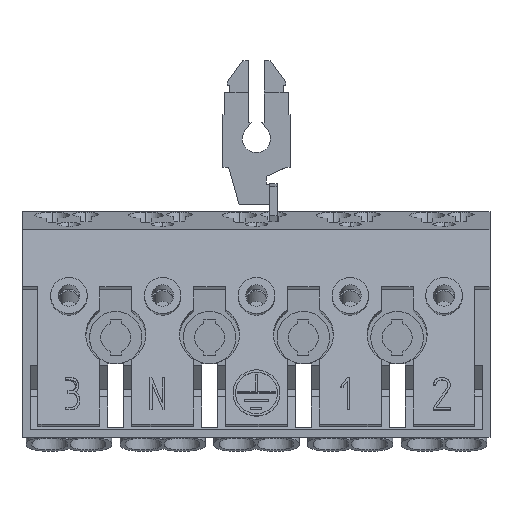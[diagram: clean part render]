
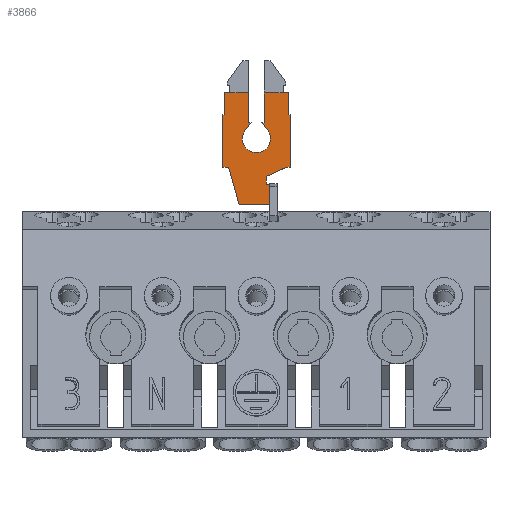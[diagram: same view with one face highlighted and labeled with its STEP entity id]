
A CAD part, top view. The second image highlights one B-rep face of the part: STEP entity #3866.
In plain terms, the highlighted planar face has unit normal (0, 0, 1).
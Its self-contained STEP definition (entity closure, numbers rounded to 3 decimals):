
#966=CARTESIAN_POINT(' ',(12.4,-1.6,2.));
#967=VERTEX_POINT(' ',#966);
#981=CARTESIAN_POINT(' ',(10.101,-1.6,2.));
#986=DIRECTION(' ',(1.,0.,0.));
#991=VECTOR(' ',#986,1.);
#996=LINE('',#981,#991);
#1001=CARTESIAN_POINT(' ',(10.101,-1.6,2.));
#1002=VERTEX_POINT(' ',#1001);
#1006=EDGE_CURVE(' ',#1002,#967,#996,.T.);
#2061=CARTESIAN_POINT(' ',(9.239,0.95,2.));
#2062=VERTEX_POINT(' ',#2061);
#2076=CARTESIAN_POINT(' ',(9.239,0.95,2.));
#2081=DIRECTION(' ',(1.,0.,0.));
#2086=VECTOR(' ',#2081,1.);
#2091=LINE('',#2076,#2086);
#2096=CARTESIAN_POINT(' ',(12.4,0.95,2.));
#2097=VERTEX_POINT(' ',#2096);
#2101=EDGE_CURVE(' ',#2062,#2097,#2091,.T.);
#2856=CARTESIAN_POINT(' ',(12.4,-1.6,2.));
#2861=DIRECTION(' ',(0.,1.,0.));
#2866=VECTOR(' ',#2861,1.);
#2871=LINE('',#2856,#2866);
#2876=EDGE_CURVE(' ',#967,#2097,#2871,.T.);
#3076=CARTESIAN_POINT(' ',(0.5,-1.8,2.));
#3081=DIRECTION(' ',(0.,0.,1.));
#3086=DIRECTION(' ',(1.,0.,0.));
#3091=AXIS2_PLACEMENT_3D(' ',#3076,#3081,#3086);
#3096=PLANE(' ',#3091);
#3101=CARTESIAN_POINT(' ',(0.5,3.651,2.));
#3106=DIRECTION(' ',(0.963,0.268,0.));
#3111=VECTOR(' ',#3106,1.);
#3116=LINE('',#3101,#3111);
#3121=CARTESIAN_POINT(' ',(0.5,3.651,2.));
#3122=VERTEX_POINT(' ',#3121);
#3126=CARTESIAN_POINT(' ',(4.493,4.764,2.));
#3127=VERTEX_POINT(' ',#3126);
#3131=EDGE_CURVE(' ',#3122,#3127,#3116,.T.);
#3136=ORIENTED_EDGE(' ',*,*,#3131,.F.);
#3141=CARTESIAN_POINT(' ',(0.5,0.4,2.));
#3146=DIRECTION(' ',(0.,1.,0.));
#3151=VECTOR(' ',#3146,1.);
#3156=LINE('',#3141,#3151);
#3161=CARTESIAN_POINT(' ',(0.5,0.4,2.));
#3162=VERTEX_POINT(' ',#3161);
#3166=EDGE_CURVE(' ',#3162,#3122,#3156,.T.);
#3171=ORIENTED_EDGE(' ',*,*,#3166,.F.);
#3176=CARTESIAN_POINT(' ',(0.5,0.4,2.));
#3181=DIRECTION(' ',(1.,0.,0.));
#3186=VECTOR(' ',#3181,1.);
#3191=LINE('',#3176,#3186);
#3196=CARTESIAN_POINT(' ',(2.66,0.4,2.));
#3197=VERTEX_POINT(' ',#3196);
#3201=EDGE_CURVE(' ',#3162,#3197,#3191,.T.);
#3206=ORIENTED_EDGE(' ',*,*,#3201,.T.);
#3211=CARTESIAN_POINT(' ',(2.66,0.4,2.));
#3216=DIRECTION(' ',(0.,1.,0.));
#3221=VECTOR(' ',#3216,1.);
#3226=LINE('',#3211,#3221);
#3231=CARTESIAN_POINT(' ',(2.66,0.734,2.));
#3232=VERTEX_POINT(' ',#3231);
#3236=EDGE_CURVE(' ',#3197,#3232,#3226,.T.);
#3241=ORIENTED_EDGE(' ',*,*,#3236,.T.);
#3246=CARTESIAN_POINT(' ',(2.66,0.734,2.));
#3251=DIRECTION(' ',(1.,0.,0.));
#3256=VECTOR(' ',#3251,1.);
#3261=LINE('',#3246,#3256);
#3266=CARTESIAN_POINT(' ',(3.507,0.734,2.));
#3267=VERTEX_POINT(' ',#3266);
#3271=EDGE_CURVE(' ',#3232,#3267,#3261,.T.);
#3276=ORIENTED_EDGE(' ',*,*,#3271,.T.);
#3281=CARTESIAN_POINT(' ',(3.507,0.734,2.));
#3286=DIRECTION(' ',(0.413,-0.911,0.));
#3291=VECTOR(' ',#3286,1.);
#3296=LINE('',#3281,#3291);
#3301=CARTESIAN_POINT(' ',(4.493,-1.441,2.));
#3302=VERTEX_POINT(' ',#3301);
#3306=EDGE_CURVE(' ',#3267,#3302,#3296,.T.);
#3311=ORIENTED_EDGE(' ',*,*,#3306,.T.);
#3316=CARTESIAN_POINT(' ',(4.493,-1.441,2.));
#3321=DIRECTION(' ',(0.,-1.,0.));
#3326=VECTOR(' ',#3321,1.);
#3331=LINE('',#3316,#3326);
#3336=CARTESIAN_POINT(' ',(4.493,-1.8,2.));
#3337=VERTEX_POINT(' ',#3336);
#3341=EDGE_CURVE(' ',#3302,#3337,#3331,.T.);
#3346=ORIENTED_EDGE(' ',*,*,#3341,.T.);
#3351=CARTESIAN_POINT(' ',(4.493,-1.8,2.));
#3356=DIRECTION(' ',(1.,0.,0.));
#3361=VECTOR(' ',#3356,1.);
#3366=LINE('',#3351,#3361);
#3371=CARTESIAN_POINT(' ',(10.101,-1.8,2.));
#3372=VERTEX_POINT(' ',#3371);
#3376=EDGE_CURVE(' ',#3337,#3372,#3366,.T.);
#3381=ORIENTED_EDGE(' ',*,*,#3376,.T.);
#3386=CARTESIAN_POINT(' ',(10.101,-1.8,2.));
#3391=DIRECTION(' ',(0.,1.,0.));
#3396=VECTOR(' ',#3391,1.);
#3401=LINE('',#3386,#3396);
#3406=EDGE_CURVE(' ',#3372,#1002,#3401,.T.);
#3411=ORIENTED_EDGE(' ',*,*,#3406,.T.);
#3416=ORIENTED_EDGE(' ',*,*,#1006,.T.);
#3421=ORIENTED_EDGE(' ',*,*,#2876,.T.);
#3426=ORIENTED_EDGE(' ',*,*,#2101,.F.);
#3431=CARTESIAN_POINT(' ',(9.239,1.26,2.));
#3436=DIRECTION(' ',(0.,-1.,0.));
#3441=VECTOR(' ',#3436,1.);
#3446=LINE('',#3431,#3441);
#3451=CARTESIAN_POINT(' ',(9.239,1.26,2.));
#3452=VERTEX_POINT(' ',#3451);
#3456=EDGE_CURVE(' ',#3452,#2062,#3446,.T.);
#3461=ORIENTED_EDGE(' ',*,*,#3456,.F.);
#3466=CARTESIAN_POINT(' ',(8.46,0.632,2.));
#3471=DIRECTION(' ',(0.778,0.628,0.));
#3476=VECTOR(' ',#3471,1.);
#3481=LINE('',#3466,#3476);
#3486=CARTESIAN_POINT(' ',(8.46,0.632,2.));
#3487=VERTEX_POINT(' ',#3486);
#3491=EDGE_CURVE(' ',#3487,#3452,#3481,.T.);
#3496=ORIENTED_EDGE(' ',*,*,#3491,.F.);
#3501=CARTESIAN_POINT(' ',(7.519,1.8,2.));
#3506=DIRECTION(' ',(0.,-0.,1.));
#3511=DIRECTION(' ',(-1.,0.,0.));
#3516=AXIS2_PLACEMENT_3D(' ',#3501,#3506,#3511);
#3521=CIRCLE('',#3516,1.5);
#3526=CARTESIAN_POINT(' ',(6.019,1.8,2.));
#3527=VERTEX_POINT(' ',#3526);
#3531=EDGE_CURVE(' ',#3527,#3487,#3521,.T.);
#3536=ORIENTED_EDGE(' ',*,*,#3531,.F.);
#3541=CARTESIAN_POINT(' ',(7.519,1.8,2.));
#3546=DIRECTION(' ',(0.,0.,1.));
#3551=DIRECTION(' ',(0.628,0.778,0.));
#3556=AXIS2_PLACEMENT_3D(' ',#3541,#3546,#3551);
#3561=CIRCLE('',#3556,1.5);
#3566=CARTESIAN_POINT(' ',(8.46,2.968,2.));
#3567=VERTEX_POINT(' ',#3566);
#3571=EDGE_CURVE(' ',#3567,#3527,#3561,.T.);
#3576=ORIENTED_EDGE(' ',*,*,#3571,.F.);
#3581=CARTESIAN_POINT(' ',(9.239,2.34,2.));
#3586=DIRECTION(' ',(-0.778,0.628,0.));
#3591=VECTOR(' ',#3586,1.);
#3596=LINE('',#3581,#3591);
#3601=CARTESIAN_POINT(' ',(9.239,2.34,2.));
#3602=VERTEX_POINT(' ',#3601);
#3606=EDGE_CURVE(' ',#3602,#3567,#3596,.T.);
#3611=ORIENTED_EDGE(' ',*,*,#3606,.F.);
#3616=CARTESIAN_POINT(' ',(9.239,2.65,2.));
#3621=DIRECTION(' ',(0.,-1.,0.));
#3626=VECTOR(' ',#3621,1.);
#3631=LINE('',#3616,#3626);
#3636=CARTESIAN_POINT(' ',(9.239,2.65,2.));
#3637=VERTEX_POINT(' ',#3636);
#3641=EDGE_CURVE(' ',#3637,#3602,#3631,.T.);
#3646=ORIENTED_EDGE(' ',*,*,#3641,.F.);
#3651=CARTESIAN_POINT(' ',(12.4,2.65,2.));
#3656=DIRECTION(' ',(-1.,0.,0.));
#3661=VECTOR(' ',#3656,1.);
#3666=LINE('',#3651,#3661);
#3671=CARTESIAN_POINT(' ',(12.4,2.65,2.));
#3672=VERTEX_POINT(' ',#3671);
#3676=EDGE_CURVE(' ',#3672,#3637,#3666,.T.);
#3681=ORIENTED_EDGE(' ',*,*,#3676,.F.);
#3686=CARTESIAN_POINT(' ',(12.4,2.65,2.));
#3691=DIRECTION(' ',(0.,1.,0.));
#3696=VECTOR(' ',#3691,1.);
#3701=LINE('',#3686,#3696);
#3706=CARTESIAN_POINT(' ',(12.4,5.2,2.));
#3707=VERTEX_POINT(' ',#3706);
#3711=EDGE_CURVE(' ',#3672,#3707,#3701,.T.);
#3716=ORIENTED_EDGE(' ',*,*,#3711,.T.);
#3721=CARTESIAN_POINT(' ',(10.101,5.2,2.));
#3726=DIRECTION(' ',(1.,0.,0.));
#3731=VECTOR(' ',#3726,1.);
#3736=LINE('',#3721,#3731);
#3741=CARTESIAN_POINT(' ',(10.101,5.2,2.));
#3742=VERTEX_POINT(' ',#3741);
#3746=EDGE_CURVE(' ',#3742,#3707,#3736,.T.);
#3751=ORIENTED_EDGE(' ',*,*,#3746,.F.);
#3756=CARTESIAN_POINT(' ',(10.101,5.4,2.));
#3761=DIRECTION(' ',(0.,-1.,0.));
#3766=VECTOR(' ',#3761,1.);
#3771=LINE('',#3756,#3766);
#3776=CARTESIAN_POINT(' ',(10.101,5.4,2.));
#3777=VERTEX_POINT(' ',#3776);
#3781=EDGE_CURVE(' ',#3777,#3742,#3771,.T.);
#3786=ORIENTED_EDGE(' ',*,*,#3781,.F.);
#3791=CARTESIAN_POINT(' ',(4.493,5.4,2.));
#3796=DIRECTION(' ',(1.,0.,0.));
#3801=VECTOR(' ',#3796,1.);
#3806=LINE('',#3791,#3801);
#3811=CARTESIAN_POINT(' ',(4.493,5.4,2.));
#3812=VERTEX_POINT(' ',#3811);
#3816=EDGE_CURVE(' ',#3812,#3777,#3806,.T.);
#3821=ORIENTED_EDGE(' ',*,*,#3816,.F.);
#3826=CARTESIAN_POINT(' ',(4.493,4.764,2.));
#3831=DIRECTION(' ',(0.,1.,0.));
#3836=VECTOR(' ',#3831,1.);
#3841=LINE('',#3826,#3836);
#3846=EDGE_CURVE(' ',#3127,#3812,#3841,.T.);
#3851=ORIENTED_EDGE(' ',*,*,#3846,.F.);
#3856=EDGE_LOOP(' ',(#3136,#3171,#3206,#3241,#3276,#3311,#3346,#3381,#3411,#3416,#3421,#3426,#3461,#3496,#3536,#3576,#3611,#3646,#3681,#3716,#3751,#3786,#3821,#3851));
#3861=FACE_OUTER_BOUND(' ',#3856,.T.);
#3866=ADVANCED_FACE('',(#3861),#3096,.T.);
